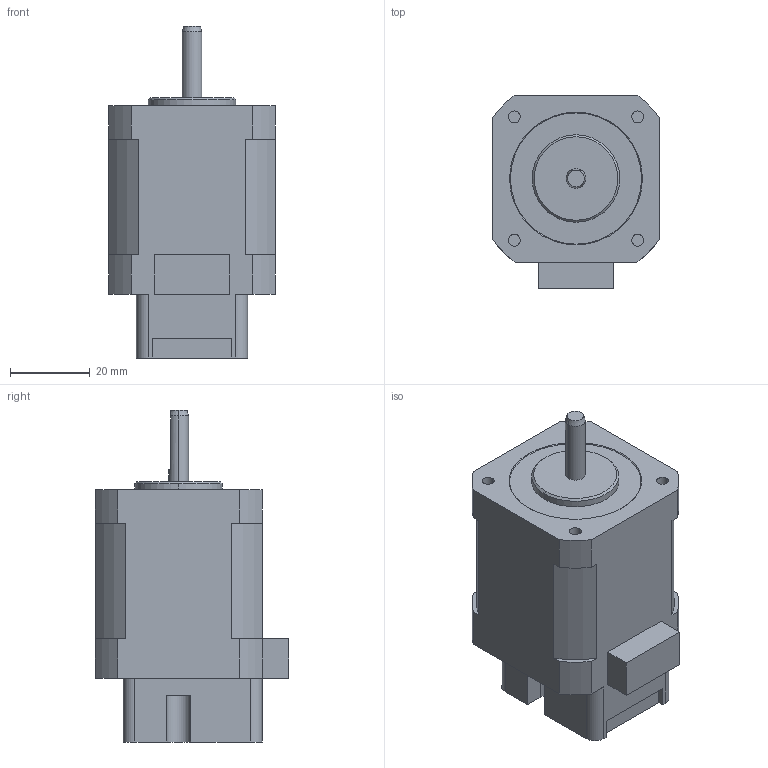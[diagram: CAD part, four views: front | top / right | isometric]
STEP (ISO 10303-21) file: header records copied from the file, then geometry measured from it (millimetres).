
FILE_DESCRIPTION (( 'STEP AP203' ), '1' );
FILE_NAME ('P-PMSA-U42D3LE-NL_3D.STEP', '2020-02-04T02:10:39', ( '' ), ( '' ), 'SwSTEP 2.0', 'SolidWorks 2018', '' );
FILE_SCHEMA (( 'CONFIG_CONTROL_DESIGN' ));
Length unit declared in the file: millimetre
Products named in the file (1): P-PMSA-U42D3LE-NL_3D
Bounding box: 42 x 48.7 x 83.5 mm (x, y, z)
Volume: 96438.7 mm3; surface area: 13932 mm2
Topology: 1 solids, 1 shells, 80 faces, 206 edges, 136 vertices
Faces by surface type: plane 42, cylinder 31, cone 7
Entity records: 2538 total; most frequent: DIRECTION 439, CARTESIAN_POINT 437, ORIENTED_EDGE 412, EDGE_CURVE 206, AXIS2_PLACEMENT_3D 154, VERTEX_POINT 136, VECTOR 131, LINE 131
